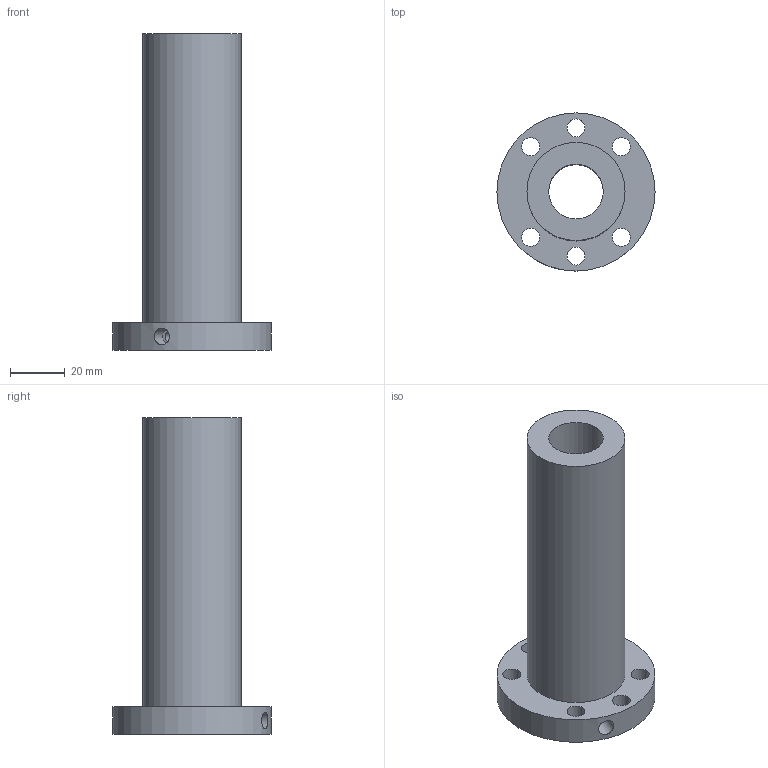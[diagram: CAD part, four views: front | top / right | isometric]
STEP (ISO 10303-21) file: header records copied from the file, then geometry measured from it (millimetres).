
FILE_DESCRIPTION(/* description */ (''),/* implementation_level */ '2;1');
FILE_NAME(/* name */ '20-20K2_3175',/* time_stamp */ '2007-10-15T12:54:02+08:00',/* author */ (''),/* organization */ (''),/* preprocessor_version */ 'ST-DEVELOPER v11',/* originating_system */ 'UGS - NX 5.0',/* authorisation */ '');
FILE_SCHEMA (('CONFIG_CONTROL_DESIGN'));
Length unit declared in the file: millimetre
Products named in the file (1): 20-20K2_3175
Bounding box: 58 x 58 x 116 mm (x, y, z)
Volume: 95456.6 mm3; surface area: 26851.9 mm2
Topology: 1 solids, 1 shells, 15 faces, 34 edges, 23 vertices
Faces by surface type: cylinder 11, plane 4
Full cylindrical faces by diameter (mm): 4 x1, 6 x1, 6.6 x6, 20 x1, 36 x1, 58 x1
Entity records: 600 total; most frequent: CARTESIAN_POINT 174, DIRECTION 72, FACE_BOUND 44, EDGE_LOOP 44, ORIENTED_EDGE 44, AXIS2_PLACEMENT_3D 36, VERTEX_POINT 22, EDGE_CURVE 22
